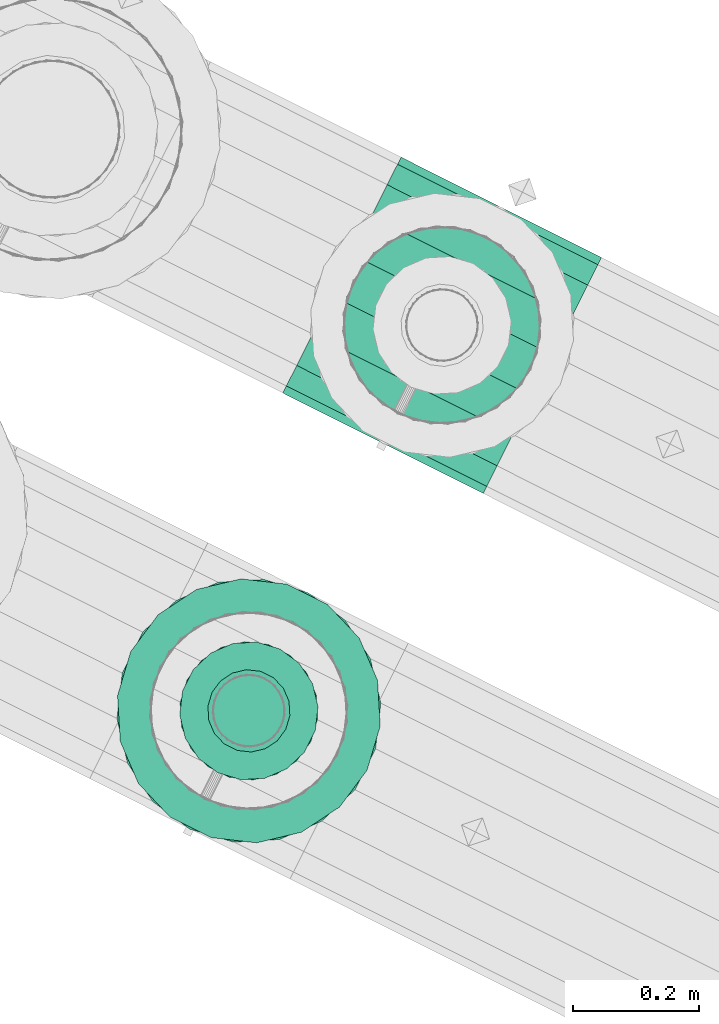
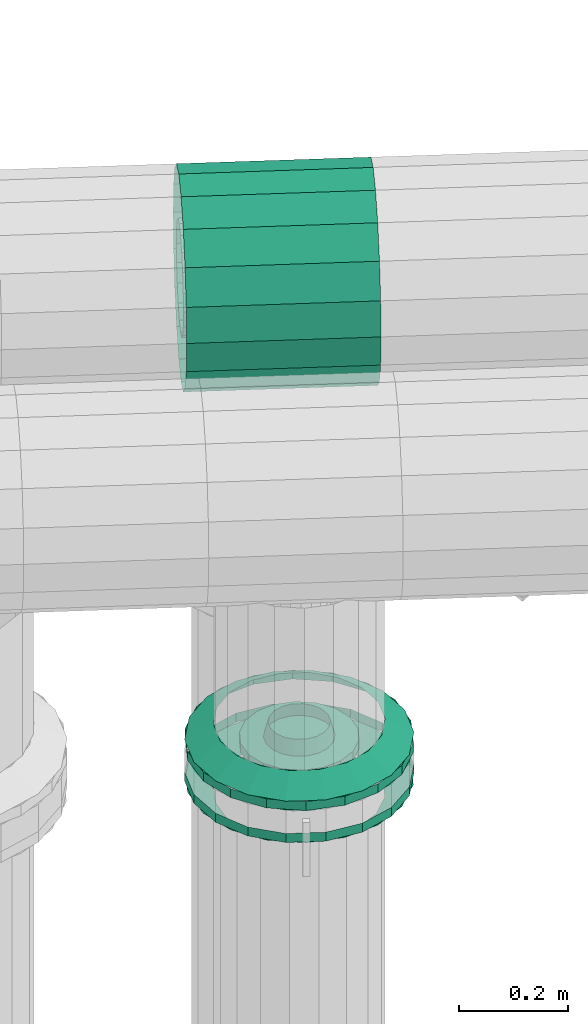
# One storey, part 122 of 152: 3 flow fittings.
"""IFC2X3 building model written with IfcOpenShell, lengths in metres."""

from ifc_helpers import new_model, si_unit, derived_unit, direction, frame, origin, place, context, subcontext, project, spatial, face_set, surface_model, source, transform, mapped, material, type_object, type_shapes, element, save


model = new_model("IFC2X3")

# Units and contexts
model_context = context("Model", 3, precision=5.2338327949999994e-05, world=origin(), true_north=direction((0.0, 1.0)))
body_context = subcontext(model_context, "Body", "Model", "MODEL_VIEW")
ifc_project = project(units=[si_unit("LENGTHUNIT", "METRE"), si_unit("AREAUNIT", "SQUARE_METRE"), si_unit("VOLUMEUNIT", "CUBIC_METRE"), si_unit("MASSUNIT", "GRAM", prefix="KILO"), si_unit("PLANEANGLEUNIT", "RADIAN"), derived_unit("THERMALTRANSMITTANCEUNIT", [(si_unit("MASSUNIT", "GRAM", prefix="KILO"), 1), (si_unit("THERMODYNAMICTEMPERATUREUNIT", "KELVIN"), -1), (si_unit("TIMEUNIT", "SECOND"), -3)])], contexts=[model_context])

# Site, building, storey
site_placement = place(None, frame((0.0, 0.0, 0.0), z_axis=(0.0, 0.0, 1.0), x_axis=(0.8939966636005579, -0.4480736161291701, 0.0)))
site = spatial("IfcSite", under=ifc_project, at=site_placement, Name="Default", CompositionType="ELEMENT")
building_placement = place(site_placement, origin())
building = spatial("IfcBuilding", under=site, at=building_placement, CompositionType="ELEMENT")
storey_placement = place(building_placement, frame((0.0, 0.0, 2.7499999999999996)))
storey = spatial("IfcBuildingStorey", under=building, at=storey_placement, Name="1. Obergeschoss", CompositionType="ELEMENT", Elevation=2.7499999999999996)

# Flow fittings
ifc_material_1 = material(Name="IfcSurfaceStyle #1741")
distribution_element_type_1 = type_object("IfcDistributionElementType", Name="Abzweigstück 226660:Abzweigstück 226660", material=ifc_material_1)
shared_shape_1 = source(origin(), body_context, "Body", "SurfaceModel", [
    surface_model("IfcFaceBasedSurfaceModel", [(7.460618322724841, 7.902658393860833, 5.553028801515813), (7.460618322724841, 7.909265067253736, 5.59049710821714), (7.10461832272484, 7.909265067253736, 5.59049710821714), (7.10461832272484, 7.902658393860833, 5.553028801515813), (7.460618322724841, 7.928288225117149, 5.623446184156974), (7.10461832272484, 7.928288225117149, 5.623446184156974), (7.460618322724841, 7.957433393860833, 5.6479018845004), (7.10461832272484, 7.957433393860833, 5.6479018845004), (7.460618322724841, 7.9931852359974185, 5.660914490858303), (7.10461832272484, 7.9931852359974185, 5.660914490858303), (7.460618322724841, 8.031231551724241, 5.660914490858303), (7.10461832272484, 8.031231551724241, 5.660914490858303), (7.460618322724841, 8.066983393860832, 5.647901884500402), (7.10461832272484, 8.066983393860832, 5.647901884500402), (7.460618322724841, 8.096128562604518, 5.623446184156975), (7.10461832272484, 8.096128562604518, 5.623446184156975), (7.460618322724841, 8.115151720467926, 5.590497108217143), (7.10461832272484, 8.115151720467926, 5.590497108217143), (7.460618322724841, 8.121758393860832, 5.553028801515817), (7.10461832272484, 8.121758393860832, 5.553028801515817), (7.460618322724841, 8.115151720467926, 5.51556049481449), (7.10461832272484, 8.115151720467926, 5.51556049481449), (7.460618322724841, 8.096128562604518, 5.482611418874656), (7.10461832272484, 8.096128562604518, 5.482611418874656), (7.460618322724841, 8.066983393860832, 5.458155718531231), (7.10461832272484, 8.066983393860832, 5.458155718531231), (7.460618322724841, 8.031231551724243, 5.445143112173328), (7.10461832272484, 8.031231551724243, 5.445143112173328), (7.460618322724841, 7.993185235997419, 5.445143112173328), (7.10461832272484, 7.993185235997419, 5.445143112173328), (7.460618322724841, 7.957433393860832, 5.45815571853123), (7.10461832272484, 7.957433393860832, 5.45815571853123), (7.460618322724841, 7.928288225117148, 5.4826114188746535), (7.10461832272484, 7.928288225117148, 5.4826114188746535), (7.460618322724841, 7.909265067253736, 5.515560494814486), (7.10461832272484, 7.909265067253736, 5.515560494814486), (7.460618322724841, 7.802658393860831, 5.553028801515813), (7.460618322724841, 7.8152958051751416, 5.624699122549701), (7.10461832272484, 7.815295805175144, 5.624699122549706), (7.10461832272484, 7.802658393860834, 5.553028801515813), (7.460618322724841, 7.851683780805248, 5.687724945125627), (7.10461832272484, 7.851683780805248, 5.687724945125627), (7.460618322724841, 7.907433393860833, 5.7345044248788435), (7.10461832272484, 7.907433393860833, 5.7345044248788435), (7.460618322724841, 7.975820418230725, 5.759395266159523), (7.10461832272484, 7.975820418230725, 5.759395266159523), (7.460618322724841, 8.048596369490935, 5.759395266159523), (7.10461832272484, 8.048596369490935, 5.759395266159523), (7.460618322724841, 8.11698339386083, 5.734504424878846), (7.10461832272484, 8.11698339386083, 5.734504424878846), (7.460618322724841, 8.172733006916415, 5.687724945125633), (7.10461832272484, 8.172733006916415, 5.687724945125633), (7.460618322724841, 8.20912098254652, 5.6246991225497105), (7.10461832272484, 8.20912098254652, 5.6246991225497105), (7.460618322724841, 8.22175839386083, 5.553028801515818), (7.10461832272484, 8.22175839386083, 5.553028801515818), (7.460618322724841, 8.209120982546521, 5.481358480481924), (7.10461832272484, 8.209120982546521, 5.481358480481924), (7.460618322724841, 8.172733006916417, 5.418332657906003), (7.10461832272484, 8.172733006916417, 5.418332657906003), (7.460618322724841, 8.116983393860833, 5.371553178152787), (7.10461832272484, 8.116983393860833, 5.371553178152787), (7.460618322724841, 8.04859636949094, 5.3466623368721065), (7.10461832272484, 8.04859636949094, 5.3466623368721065), (7.460618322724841, 7.97582041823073, 5.3466623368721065), (7.10461832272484, 7.97582041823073, 5.3466623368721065), (7.460618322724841, 7.907433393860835, 5.3715531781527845), (7.10461832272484, 7.907433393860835, 5.3715531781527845), (7.460618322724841, 7.851683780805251, 5.418332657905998), (7.10461832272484, 7.851683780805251, 5.418332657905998), (7.460618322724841, 7.815295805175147, 5.481358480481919), (7.10461832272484, 7.815295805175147, 5.481358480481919), (7.22546832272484, 8.012208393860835, 5.443478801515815), (7.228914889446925, 8.031754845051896, 5.445236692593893), (7.228914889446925, 8.031754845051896, 5.397028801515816), (7.22546832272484, 8.012208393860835, 5.397028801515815), (7.238838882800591, 8.048943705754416, 5.449821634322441), (7.238838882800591, 8.04894370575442, 5.397028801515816), (7.25404332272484, 8.061701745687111, 5.455296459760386), (7.25404332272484, 8.061701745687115, 5.397028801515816), (7.272694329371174, 8.068490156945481, 5.459041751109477), (7.272694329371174, 8.068490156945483, 5.397028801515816), (7.292542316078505, 8.068490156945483, 5.459041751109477), (7.292542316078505, 8.068490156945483, 5.397028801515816), (7.31119332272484, 8.061701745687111, 5.455296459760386), (7.31119332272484, 8.061701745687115, 5.397028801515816), (7.32639776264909, 8.048943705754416, 5.449821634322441), (7.32639776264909, 8.04894370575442, 5.397028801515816), (7.336321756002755, 8.031754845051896, 5.445236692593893), (7.336321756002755, 8.031754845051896, 5.397028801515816), (7.33976832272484, 8.012208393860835, 5.443478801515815), (7.33976832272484, 8.012208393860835, 5.397028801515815), (7.336321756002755, 7.992661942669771, 5.445236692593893), (7.336321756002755, 7.992661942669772, 5.397028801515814), (7.326397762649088, 7.975473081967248, 5.449821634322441), (7.32639776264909, 7.975473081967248, 5.397028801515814), (7.31119332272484, 7.962715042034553, 5.455296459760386), (7.31119332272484, 7.962715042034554, 5.397028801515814), (7.292542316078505, 7.955926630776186, 5.459041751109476), (7.292542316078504, 7.955926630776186, 5.397028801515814), (7.272694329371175, 7.955926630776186, 5.459041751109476), (7.272694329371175, 7.955926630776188, 5.397028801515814), (7.25404332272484, 7.962715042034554, 5.455296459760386), (7.25404332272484, 7.962715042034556, 5.397028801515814), (7.238838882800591, 7.975473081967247, 5.449821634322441), (7.238838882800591, 7.975473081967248, 5.397028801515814), (7.228914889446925, 7.992661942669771, 5.445236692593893), (7.228914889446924, 7.992661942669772, 5.397028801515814)], [face_set([[[0, 1, 2, 3]], [[1, 4, 5, 2]], [[4, 6, 7, 5]], [[6, 8, 9, 7]], [[8, 10, 11, 9]], [[10, 12, 13, 11]], [[12, 14, 15, 13]], [[14, 16, 17, 15]], [[16, 18, 19, 17]], [[18, 20, 21, 19]], [[20, 22, 23, 21]], [[22, 24, 25, 23]], [[24, 26, 27, 25]], [[26, 28, 29, 27]], [[28, 30, 31, 29]], [[30, 32, 33, 31]], [[32, 34, 35, 33]], [[34, 0, 3, 35]], [[36, 37, 38, 39]], [[37, 40, 41, 38]], [[40, 42, 43, 41]], [[42, 44, 45, 43]], [[44, 46, 47, 45]], [[46, 48, 49, 47]], [[48, 50, 51, 49]], [[50, 52, 53, 51]], [[52, 54, 55, 53]], [[54, 56, 57, 55]], [[56, 58, 59, 57]], [[58, 60, 61, 59]], [[60, 62, 63, 61]], [[62, 64, 65, 63]], [[64, 66, 67, 65]], [[66, 68, 69, 67]], [[68, 70, 71, 69]], [[70, 36, 39, 71]], [[72, 73, 74, 75]], [[73, 76, 77, 74]], [[76, 78, 79, 77]], [[78, 80, 81, 79]], [[80, 82, 83, 81]], [[82, 84, 85, 83]], [[84, 86, 87, 85]], [[86, 88, 89, 87]], [[88, 90, 91, 89]], [[90, 92, 93, 91]], [[92, 94, 95, 93]], [[94, 96, 97, 95]], [[96, 98, 99, 97]], [[98, 100, 101, 99]], [[100, 102, 103, 101]], [[102, 104, 105, 103]], [[104, 106, 107, 105]], [[106, 72, 75, 107]]])]),
])
type_shapes(distribution_element_type_1, [shared_shape_1])
flow_fitting_1_placement = place(storey_placement, frame((0.0, 0.0, -2.7499999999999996)))
element("IfcFlowFitting", 1, at=flow_fitting_1_placement, inside=storey, type_object=distribution_element_type_1, material=ifc_material_1, Name="Abzweigstück", ObjectType="Abzweigstück", context=body_context, shape_type="MappedRepresentation", body=[
    mapped(shared_shape_1, transform((0.0, 0.0, 0.0), scale=1.0)),
])
ifc_material_2 = material(Name="IfcSurfaceStyle #9317")
distribution_element_type_2 = type_object("IfcDistributionElementType", Name="Flansch 242638:Flansch 242638", material=ifc_material_2)
shared_shape_2 = source(origin(), body_context, "Body", "SurfaceModel", [
    surface_model("IfcFaceBasedSurfaceModel", [(7.225468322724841, 7.327208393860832, 5.034622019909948), (7.228914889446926, 7.346754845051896, 5.034622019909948), (7.221068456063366, 7.349610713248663, 5.002622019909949), (7.217118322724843, 7.327208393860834, 5.002622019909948), (7.238838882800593, 7.363943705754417, 5.034622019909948), (7.23244241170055, 7.369310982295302, 5.002622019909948), (7.2540433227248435, 7.376701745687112, 5.034622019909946), (7.2498683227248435, 7.383933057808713, 5.002622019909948), (7.272694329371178, 7.38349015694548, 5.034622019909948), (7.271244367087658, 7.391713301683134, 5.002622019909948), (7.292542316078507, 7.38349015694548, 5.034622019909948), (7.293992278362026, 7.391713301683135, 5.002622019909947), (7.311193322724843, 7.376701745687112, 5.034622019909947), (7.315368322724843, 7.383933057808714, 5.002622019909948), (7.3263977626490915, 7.36394370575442, 5.034622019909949), (7.332794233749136, 7.369310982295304, 5.002622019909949), (7.336321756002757, 7.346754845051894, 5.034622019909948), (7.344168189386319, 7.349610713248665, 5.002622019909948), (7.339768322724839, 7.327208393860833, 5.034622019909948), (7.348118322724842, 7.327208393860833, 5.002622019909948), (7.336321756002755, 7.307661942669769, 5.034622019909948), (7.344168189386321, 7.304806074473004, 5.002622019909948), (7.326397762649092, 7.290473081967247, 5.034622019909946), (7.332794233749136, 7.285105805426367, 5.002622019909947), (7.311193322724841, 7.277715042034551, 5.034622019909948), (7.315368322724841, 7.270483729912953, 5.002622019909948), (7.292542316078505, 7.270926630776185, 5.034622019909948), (7.293992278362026, 7.262703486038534, 5.002622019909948), (7.272694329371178, 7.270926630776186, 5.034622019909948), (7.27124436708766, 7.262703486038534, 5.002622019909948), (7.2540433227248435, 7.27771504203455, 5.034622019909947), (7.249868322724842, 7.270483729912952, 5.002622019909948), (7.238838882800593, 7.290473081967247, 5.034622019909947), (7.232442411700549, 7.285105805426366, 5.002622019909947), (7.228914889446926, 7.307661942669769, 5.034622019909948), (7.221068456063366, 7.304806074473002, 5.002622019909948), (7.282618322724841, 7.217208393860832, 5.002622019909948), (7.244996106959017, 7.2238422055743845, 5.002622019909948), (7.244996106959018, 7.223842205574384, 4.982622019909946), (7.282618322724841, 7.217208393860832, 4.982622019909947), (7.211911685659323, 7.242943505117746, 5.002622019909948), (7.211911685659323, 7.242943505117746, 4.982622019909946), (7.1873555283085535, 7.272208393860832, 5.002622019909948), (7.1873555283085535, 7.272208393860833, 4.982622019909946), (7.1742894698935, 7.308107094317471, 5.002622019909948), (7.1742894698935, 7.308107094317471, 4.982622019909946), (7.174289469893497, 7.346309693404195, 5.002622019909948), (7.174289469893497, 7.346309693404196, 4.982622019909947), (7.1873555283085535, 7.382208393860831, 5.002622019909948), (7.187355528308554, 7.382208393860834, 4.9826220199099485), (7.211911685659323, 7.41147328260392, 5.002622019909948), (7.211911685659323, 7.411473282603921, 4.982622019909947), (7.244996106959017, 7.430574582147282, 5.002622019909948), (7.244996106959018, 7.430574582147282, 4.982622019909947), (7.282618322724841, 7.437208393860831, 5.002622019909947), (7.282618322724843, 7.437208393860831, 4.982622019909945), (7.320240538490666, 7.430574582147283, 5.002622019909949), (7.320240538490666, 7.430574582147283, 4.982622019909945), (7.353324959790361, 7.411473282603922, 5.002622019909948), (7.353324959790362, 7.411473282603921, 4.982622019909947), (7.377881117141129, 7.382208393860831, 5.002622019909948), (7.377881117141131, 7.382208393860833, 4.9826220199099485), (7.390947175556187, 7.346309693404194, 5.002622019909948), (7.390947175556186, 7.346309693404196, 4.982622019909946), (7.390947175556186, 7.308107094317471, 5.002622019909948), (7.390947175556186, 7.308107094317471, 4.982622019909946), (7.377881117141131, 7.272208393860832, 5.002622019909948), (7.377881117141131, 7.272208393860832, 4.982622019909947), (7.353324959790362, 7.242943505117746, 5.002622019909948), (7.353324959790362, 7.242943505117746, 4.982622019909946), (7.320240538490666, 7.223842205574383, 5.002622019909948), (7.320240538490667, 7.223842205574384, 4.9826220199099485), (7.282618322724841, 7.327208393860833, 5.002622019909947), (7.125468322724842, 7.3272083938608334, 5.034622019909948), (7.134945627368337, 7.38095685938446, 5.034622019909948), (7.0852828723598, 7.399032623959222, 5.002622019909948), (7.07261832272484, 7.3272083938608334, 5.002622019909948), (7.162234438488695, 7.4282224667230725, 5.034622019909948), (7.121748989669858, 7.4621937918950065, 5.002622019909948), (7.204043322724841, 7.463304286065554, 5.034622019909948), (7.177618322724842, 7.509073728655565, 5.002622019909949), (7.255329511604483, 7.4819709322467, 5.034622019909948), (7.246152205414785, 7.534018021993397, 5.002622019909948), (7.309907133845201, 7.481970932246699, 5.034622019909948), (7.3190844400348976, 7.534018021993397, 5.002622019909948), (7.361193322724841, 7.463304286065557, 5.034622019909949), (7.387618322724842, 7.509073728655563, 5.002622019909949), (7.4030022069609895, 7.4282224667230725, 5.034622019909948), (7.443487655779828, 7.4621937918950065, 5.002622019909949), (7.4302910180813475, 7.380956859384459, 5.034622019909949), (7.479953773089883, 7.399032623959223, 5.002622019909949), (7.4397683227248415, 7.3272083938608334, 5.034622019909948), (7.492618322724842, 7.3272083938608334, 5.002622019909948), (7.430291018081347, 7.273459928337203, 5.034622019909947), (7.479953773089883, 7.255384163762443, 5.002622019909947), (7.40300220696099, 7.226194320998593, 5.034622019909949), (7.443487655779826, 7.19222299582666, 5.002622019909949), (7.361193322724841, 7.191112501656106, 5.034622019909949), (7.387618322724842, 7.1453430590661, 5.002622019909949), (7.309907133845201, 7.172445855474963, 5.034622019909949), (7.3190844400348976, 7.120398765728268, 5.002622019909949), (7.255329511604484, 7.1724458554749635, 5.034622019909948), (7.246152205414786, 7.120398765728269, 5.002622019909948), (7.204043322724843, 7.191112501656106, 5.034622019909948), (7.177618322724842, 7.145343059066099, 5.002622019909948), (7.162234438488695, 7.226194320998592, 5.034622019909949), (7.121748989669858, 7.1922229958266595, 5.002622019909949), (7.134945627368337, 7.2734599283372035, 5.034622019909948), (7.085282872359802, 7.255384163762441, 5.002622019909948), (7.282618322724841, 7.1172083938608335, 5.002622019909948), (7.210794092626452, 7.129872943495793, 5.002622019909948), (7.210794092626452, 7.129872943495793, 4.982622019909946), (7.282618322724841, 7.1172083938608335, 4.982622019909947), (7.14763292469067, 7.166339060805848, 5.002622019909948), (7.14763292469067, 7.166339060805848, 4.982622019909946), (7.10075298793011, 7.222208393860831, 5.002622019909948), (7.100752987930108, 7.222208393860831, 4.982622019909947), (7.075808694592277, 7.290742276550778, 5.002622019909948), (7.07580869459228, 7.2907422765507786, 4.9826220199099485), (7.075808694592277, 7.363674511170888, 5.002622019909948), (7.075808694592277, 7.363674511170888, 4.982622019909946), (7.1007529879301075, 7.432208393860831, 5.002622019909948), (7.100752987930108, 7.432208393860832, 4.982622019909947), (7.1476329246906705, 7.48807772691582, 5.002622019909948), (7.147632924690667, 7.488077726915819, 4.982622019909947), (7.210794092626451, 7.524543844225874, 5.002622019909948), (7.210794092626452, 7.524543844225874, 4.982622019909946), (7.282618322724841, 7.537208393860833, 5.002622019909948), (7.282618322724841, 7.537208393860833, 4.982622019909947), (7.354442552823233, 7.524543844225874, 5.002622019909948), (7.354442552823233, 7.524543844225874, 4.982622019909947), (7.417603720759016, 7.488077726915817, 5.002622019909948), (7.417603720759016, 7.488077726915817, 4.982622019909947), (7.464483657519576, 7.432208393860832, 5.002622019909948), (7.464483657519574, 7.432208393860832, 4.9826220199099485), (7.489427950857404, 7.363674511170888, 5.002622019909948), (7.489427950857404, 7.363674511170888, 4.982622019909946), (7.4894279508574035, 7.2907422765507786, 5.002622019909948), (7.489427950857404, 7.2907422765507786, 4.982622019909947), (7.464483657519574, 7.222208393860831, 5.002622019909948), (7.464483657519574, 7.222208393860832, 4.982622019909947), (7.417603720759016, 7.166339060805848, 5.002622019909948), (7.417603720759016, 7.166339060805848, 4.982622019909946), (7.354442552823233, 7.1298729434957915, 5.002622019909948), (7.354442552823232, 7.129872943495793, 4.982622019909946)], [face_set([[[0, 1, 2, 3]], [[1, 4, 5, 2]], [[4, 6, 7, 5]], [[6, 8, 9, 7]], [[8, 10, 11, 9]], [[10, 12, 13, 11]], [[12, 14, 15, 13]], [[14, 16, 17, 15]], [[16, 18, 19, 17]], [[18, 20, 21, 19]], [[20, 22, 23, 21]], [[22, 24, 25, 23]], [[24, 26, 27, 25]], [[26, 28, 29, 27]], [[28, 30, 31, 29]], [[30, 32, 33, 31]], [[32, 34, 35, 33]], [[34, 0, 3, 35]], [[36, 37, 38, 39]], [[37, 40, 41, 38]], [[40, 42, 43, 41]], [[42, 44, 45, 43]], [[44, 46, 47, 45]], [[46, 48, 49, 47]], [[48, 50, 51, 49]], [[50, 52, 53, 51]], [[52, 54, 55, 53]], [[54, 56, 57, 55]], [[56, 58, 59, 57]], [[58, 60, 61, 59]], [[60, 62, 63, 61]], [[62, 64, 65, 63]], [[64, 66, 67, 65]], [[66, 68, 69, 67]], [[68, 70, 71, 69]], [[70, 36, 39, 71]], [[72, 37, 36]], [[72, 40, 37]], [[72, 42, 40]], [[72, 44, 42]], [[72, 46, 44]], [[72, 48, 46]], [[72, 50, 48]], [[72, 52, 50]], [[72, 54, 52]], [[72, 56, 54]], [[72, 58, 56]], [[72, 60, 58]], [[72, 62, 60]], [[72, 64, 62]], [[72, 66, 64]], [[72, 68, 66]], [[72, 70, 68]], [[72, 36, 70]], [[73, 74, 75, 76]], [[74, 77, 78, 75]], [[77, 79, 80, 78]], [[79, 81, 82, 80]], [[81, 83, 84, 82]], [[83, 85, 86, 84]], [[85, 87, 88, 86]], [[87, 89, 90, 88]], [[89, 91, 92, 90]], [[91, 93, 94, 92]], [[93, 95, 96, 94]], [[95, 97, 98, 96]], [[97, 99, 100, 98]], [[99, 101, 102, 100]], [[101, 103, 104, 102]], [[103, 105, 106, 104]], [[105, 107, 108, 106]], [[107, 73, 76, 108]], [[109, 110, 111, 112]], [[110, 113, 114, 111]], [[113, 115, 116, 114]], [[115, 117, 118, 116]], [[117, 119, 120, 118]], [[119, 121, 122, 120]], [[121, 123, 124, 122]], [[123, 125, 126, 124]], [[125, 127, 128, 126]], [[127, 129, 130, 128]], [[129, 131, 132, 130]], [[131, 133, 134, 132]], [[133, 135, 136, 134]], [[135, 137, 138, 136]], [[137, 139, 140, 138]], [[139, 141, 142, 140]], [[141, 143, 144, 142]], [[143, 109, 112, 144]]])]),
])
type_shapes(distribution_element_type_2, [shared_shape_2])
flow_fitting_2_placement = place(storey_placement, frame((0.0, 0.0, -2.7499999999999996)))
element("IfcFlowFitting", 2, at=flow_fitting_2_placement, inside=storey, type_object=distribution_element_type_2, material=ifc_material_2, Name="Flansch", ObjectType="Flansch", context=body_context, shape_type="MappedRepresentation", body=[
    mapped(shared_shape_2, transform((0.0, 0.0, 0.0), scale=1.0)),
])
distribution_element_type_3 = type_object("IfcDistributionElementType", Name="Flansch 245885:Flansch 245885", material=ifc_material_2)
shared_shape_3 = source(origin(), body_context, "Body", "SurfaceModel", [
    surface_model("IfcFaceBasedSurfaceModel", [(7.392618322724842, 7.3272083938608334, 4.930622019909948), (7.385984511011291, 7.28958617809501, 4.930622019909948), (7.385984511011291, 7.28958617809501, 4.9106220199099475), (7.392618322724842, 7.3272083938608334, 4.910622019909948), (7.366883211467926, 7.256501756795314, 4.930622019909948), (7.366883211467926, 7.256501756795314, 4.9106220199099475), (7.337618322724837, 7.231945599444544, 4.930622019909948), (7.337618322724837, 7.231945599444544, 4.9106220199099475), (7.301719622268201, 7.2188795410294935, 4.930622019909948), (7.301719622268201, 7.2188795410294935, 4.9106220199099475), (7.2635170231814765, 7.2188795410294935, 4.930622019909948), (7.2635170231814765, 7.2188795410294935, 4.9106220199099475), (7.2276183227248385, 7.231945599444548, 4.930622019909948), (7.2276183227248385, 7.231945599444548, 4.9106220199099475), (7.198353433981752, 7.256501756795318, 4.930622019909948), (7.198353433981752, 7.256501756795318, 4.9106220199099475), (7.17925213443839, 7.289586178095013, 4.930622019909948), (7.17925213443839, 7.289586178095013, 4.9106220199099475), (7.172618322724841, 7.327208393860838, 4.930622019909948), (7.172618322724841, 7.327208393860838, 4.9106220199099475), (7.179252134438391, 7.364830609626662, 4.930622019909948), (7.179252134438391, 7.364830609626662, 4.9106220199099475), (7.198353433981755, 7.397915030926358, 4.930622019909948), (7.198353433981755, 7.397915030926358, 4.9106220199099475), (7.227618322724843, 7.422471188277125, 4.930622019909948), (7.227618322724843, 7.422471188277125, 4.9106220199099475), (7.263517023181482, 7.435537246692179, 4.930622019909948), (7.263517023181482, 7.435537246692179, 4.9106220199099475), (7.301719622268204, 7.435537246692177, 4.930622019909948), (7.301719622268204, 7.435537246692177, 4.9106220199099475), (7.337618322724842, 7.4224711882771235, 4.930622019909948), (7.337618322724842, 7.4224711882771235, 4.9106220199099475), (7.36688321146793, 7.397915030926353, 4.930622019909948), (7.36688321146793, 7.397915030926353, 4.9106220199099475), (7.385984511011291, 7.364830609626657, 4.930622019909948), (7.385984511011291, 7.364830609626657, 4.9106220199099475), (7.282618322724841, 7.327208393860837, 4.9106220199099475), (7.282618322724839, 7.261708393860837, 4.9106220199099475), (7.260216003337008, 7.26565852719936, 4.9106220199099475), (7.2630718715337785, 7.273504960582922, 4.878622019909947), (7.28261832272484, 7.270058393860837, 4.878622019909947), (7.240515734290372, 7.277032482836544, 4.9106220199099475), (7.245883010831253, 7.283428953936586, 4.878622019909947), (7.2258936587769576, 7.294458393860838, 4.9106220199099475), (7.233124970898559, 7.298633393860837, 4.878622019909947), (7.2181134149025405, 7.315834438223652, 4.9106220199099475), (7.2263365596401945, 7.317284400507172, 4.878622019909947), (7.2181134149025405, 7.338582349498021, 4.9106220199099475), (7.2263365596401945, 7.337132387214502, 4.878622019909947), (7.225893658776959, 7.359958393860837, 4.9106220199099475), (7.233124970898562, 7.355783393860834, 4.878622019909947), (7.240515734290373, 7.37738430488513, 4.9106220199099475), (7.245883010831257, 7.370987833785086, 4.878622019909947), (7.260216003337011, 7.3887582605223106, 4.9106220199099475), (7.26307187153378, 7.380911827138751, 4.878622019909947), (7.282618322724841, 7.392708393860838, 4.9106220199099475), (7.2826183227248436, 7.384358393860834, 4.878622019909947), (7.305020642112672, 7.388758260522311, 4.9106220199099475), (7.302164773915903, 7.38091182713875, 4.878622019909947), (7.324720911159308, 7.377384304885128, 4.9106220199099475), (7.319353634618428, 7.370987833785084, 4.878622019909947), (7.3393429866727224, 7.359958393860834, 4.9106220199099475), (7.332111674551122, 7.3557833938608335, 4.878622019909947), (7.3471232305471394, 7.338582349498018, 4.9106220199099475), (7.338900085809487, 7.337132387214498, 4.878622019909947), (7.3471232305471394, 7.31583443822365, 4.9106220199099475), (7.338900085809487, 7.317284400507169, 4.878622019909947), (7.339342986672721, 7.294458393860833, 4.9106220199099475), (7.332111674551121, 7.298633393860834, 4.878622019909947), (7.324720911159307, 7.2770324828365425, 4.9106220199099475), (7.319353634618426, 7.283428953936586, 4.878622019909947), (7.30502064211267, 7.265658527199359, 4.9106220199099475), (7.302164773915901, 7.273504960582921, 4.878622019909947), (7.492618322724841, 7.3272083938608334, 4.930622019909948), (7.479953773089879, 7.25538416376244, 4.930622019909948), (7.479953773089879, 7.25538416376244, 4.9106220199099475), (7.492618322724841, 7.3272083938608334, 4.910622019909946), (7.443487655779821, 7.1922229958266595, 4.930622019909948), (7.443487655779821, 7.1922229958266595, 4.9106220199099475), (7.387618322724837, 7.145343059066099, 4.930622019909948), (7.387618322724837, 7.145343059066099, 4.9106220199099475), (7.3190844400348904, 7.120398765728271, 4.930622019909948), (7.3190844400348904, 7.120398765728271, 4.9106220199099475), (7.2461522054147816, 7.120398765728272, 4.930622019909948), (7.2461522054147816, 7.120398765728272, 4.9106220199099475), (7.177618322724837, 7.145343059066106, 4.930622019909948), (7.177618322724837, 7.145343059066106, 4.9106220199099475), (7.121748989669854, 7.192222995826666, 4.930622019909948), (7.121748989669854, 7.192222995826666, 4.9106220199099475), (7.085282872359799, 7.25538416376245, 4.930622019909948), (7.085282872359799, 7.25538416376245, 4.9106220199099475), (7.07261832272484, 7.327208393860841, 4.930622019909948), (7.07261832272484, 7.327208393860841, 4.9106220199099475), (7.085282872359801, 7.399032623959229, 4.930622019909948), (7.085282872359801, 7.399032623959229, 4.9106220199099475), (7.121748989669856, 7.462193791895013, 4.930622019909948), (7.121748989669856, 7.462193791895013, 4.9106220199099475), (7.177618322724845, 7.509073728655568, 4.930622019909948), (7.177618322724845, 7.509073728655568, 4.9106220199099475), (7.2461522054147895, 7.5340180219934, 4.930622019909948), (7.2461522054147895, 7.5340180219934, 4.9106220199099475), (7.319084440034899, 7.534018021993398, 4.930622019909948), (7.319084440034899, 7.534018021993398, 4.9106220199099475), (7.387618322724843, 7.509073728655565, 4.930622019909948), (7.387618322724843, 7.509073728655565, 4.9106220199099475), (7.443487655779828, 7.4621937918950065, 4.930622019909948), (7.443487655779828, 7.4621937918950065, 4.9106220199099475), (7.479953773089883, 7.399032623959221, 4.930622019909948), (7.479953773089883, 7.399032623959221, 4.9106220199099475), (7.282618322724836, 7.117208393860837, 4.9106220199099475), (7.210794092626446, 7.129872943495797, 4.9106220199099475), (7.22886985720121, 7.179535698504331, 4.878622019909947), (7.282618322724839, 7.1700583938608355, 4.878622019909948), (7.147632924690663, 7.166339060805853, 4.9106220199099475), (7.181604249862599, 7.20682450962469, 4.878622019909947), (7.100752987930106, 7.22220839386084, 4.910622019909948), (7.146522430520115, 7.248633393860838, 4.878622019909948), (7.0758086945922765, 7.290742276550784, 4.9106220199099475), (7.127855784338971, 7.299919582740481, 4.878622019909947), (7.075808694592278, 7.363674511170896, 4.9106220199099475), (7.127855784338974, 7.354497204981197, 4.878622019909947), (7.100752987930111, 7.43220839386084, 4.9106220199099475), (7.146522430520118, 7.405783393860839, 4.878622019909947), (7.1476329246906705, 7.488077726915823, 4.9106220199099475), (7.1816042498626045, 7.447592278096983, 4.878622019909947), (7.210794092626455, 7.524543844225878, 4.910622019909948), (7.228869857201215, 7.4748810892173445, 4.878622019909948), (7.282618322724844, 7.537208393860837, 4.9106220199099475), (7.282618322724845, 7.484358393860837, 4.878622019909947), (7.354442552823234, 7.5245438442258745, 4.9106220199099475), (7.3363667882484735, 7.474881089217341, 4.878622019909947), (7.4176037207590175, 7.488077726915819, 4.910622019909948), (7.383632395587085, 7.447592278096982, 4.878622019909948), (7.464483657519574, 7.432208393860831, 4.9106220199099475), (7.418714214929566, 7.405783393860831, 4.878622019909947), (7.4894279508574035, 7.3636745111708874, 4.9106220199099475), (7.437380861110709, 7.35449720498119, 4.878622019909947), (7.489427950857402, 7.290742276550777, 4.9106220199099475), (7.43738086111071, 7.2999195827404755, 4.878622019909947), (7.464483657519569, 7.222208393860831, 4.9106220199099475), (7.418714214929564, 7.248633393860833, 4.878622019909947), (7.4176037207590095, 7.166339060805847, 4.910622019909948), (7.38363239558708, 7.206824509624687, 4.878622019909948), (7.354442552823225, 7.129872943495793, 4.9106220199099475), (7.336366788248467, 7.179535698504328, 4.878622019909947)], [face_set([[[0, 1, 2, 3]], [[1, 4, 5, 2]], [[4, 6, 7, 5]], [[6, 8, 9, 7]], [[8, 10, 11, 9]], [[10, 12, 13, 11]], [[12, 14, 15, 13]], [[14, 16, 17, 15]], [[16, 18, 19, 17]], [[18, 20, 21, 19]], [[20, 22, 23, 21]], [[22, 24, 25, 23]], [[24, 26, 27, 25]], [[26, 28, 29, 27]], [[28, 30, 31, 29]], [[30, 32, 33, 31]], [[32, 34, 35, 33]], [[34, 0, 3, 35]], [[36, 35, 3]], [[36, 33, 35]], [[36, 31, 33]], [[36, 29, 31]], [[36, 27, 29]], [[36, 25, 27]], [[36, 23, 25]], [[36, 21, 23]], [[36, 19, 21]], [[36, 17, 19]], [[36, 15, 17]], [[36, 13, 15]], [[36, 11, 13]], [[36, 9, 11]], [[36, 7, 9]], [[36, 5, 7]], [[36, 2, 5]], [[36, 3, 2]], [[37, 38, 39, 40]], [[38, 41, 42, 39]], [[41, 43, 44, 42]], [[43, 45, 46, 44]], [[45, 47, 48, 46]], [[47, 49, 50, 48]], [[49, 51, 52, 50]], [[51, 53, 54, 52]], [[53, 55, 56, 54]], [[55, 57, 58, 56]], [[57, 59, 60, 58]], [[59, 61, 62, 60]], [[61, 63, 64, 62]], [[63, 65, 66, 64]], [[65, 67, 68, 66]], [[67, 69, 70, 68]], [[69, 71, 72, 70]], [[71, 37, 40, 72]], [[73, 74, 75, 76]], [[74, 77, 78, 75]], [[77, 79, 80, 78]], [[79, 81, 82, 80]], [[81, 83, 84, 82]], [[83, 85, 86, 84]], [[85, 87, 88, 86]], [[87, 89, 90, 88]], [[89, 91, 92, 90]], [[91, 93, 94, 92]], [[93, 95, 96, 94]], [[95, 97, 98, 96]], [[97, 99, 100, 98]], [[99, 101, 102, 100]], [[101, 103, 104, 102]], [[103, 105, 106, 104]], [[105, 107, 108, 106]], [[107, 73, 76, 108]], [[109, 110, 111, 112]], [[110, 113, 114, 111]], [[113, 115, 116, 114]], [[115, 117, 118, 116]], [[117, 119, 120, 118]], [[119, 121, 122, 120]], [[121, 123, 124, 122]], [[123, 125, 126, 124]], [[125, 127, 128, 126]], [[127, 129, 130, 128]], [[129, 131, 132, 130]], [[131, 133, 134, 132]], [[133, 135, 136, 134]], [[135, 137, 138, 136]], [[137, 139, 140, 138]], [[139, 141, 142, 140]], [[141, 143, 144, 142]], [[143, 109, 112, 144]]])]),
])
type_shapes(distribution_element_type_3, [shared_shape_3])
flow_fitting_3_placement = place(storey_placement, frame((0.0, 0.0, -2.7499999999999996)))
element("IfcFlowFitting", 3, at=flow_fitting_3_placement, inside=storey, type_object=distribution_element_type_3, material=ifc_material_2, Name="Flansch", ObjectType="Flansch", context=body_context, shape_type="MappedRepresentation", body=[
    mapped(shared_shape_3, transform((0.0, 0.0, 0.0), scale=1.0)),
])

save(model, "model.ifc")
